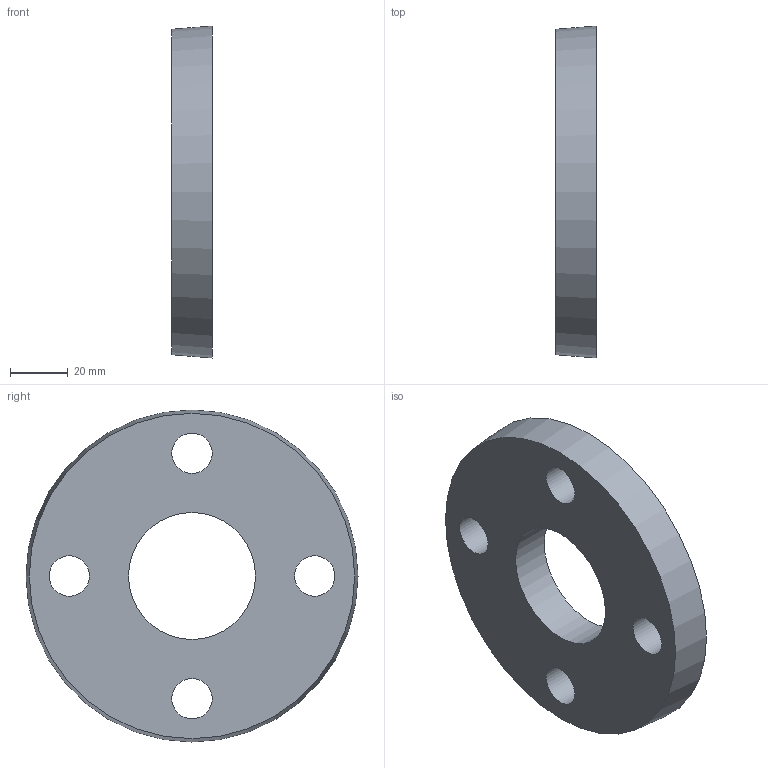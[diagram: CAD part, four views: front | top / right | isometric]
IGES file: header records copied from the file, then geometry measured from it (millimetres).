
Global section: file name: 059000032.ipt; native system: Autodesk Inventor 2015; preprocessor: unknown; author: KIM; date: 20171207.165912; units: millimetre
Bounding box: 14 x 115 x 115 mm (x, y, z)
Volume: 112619.6 mm3; surface area: 25512.4 mm2
Topology: 1 solids, 1 shells, 8 faces, 20 edges, 14 vertices
Faces by surface type: revolution 5, plane 2, cone 1
